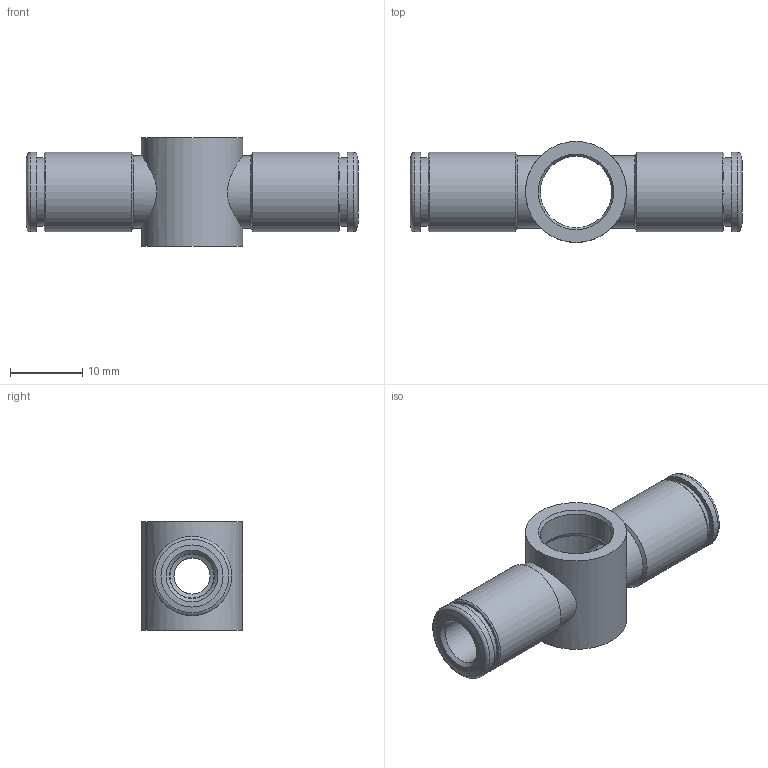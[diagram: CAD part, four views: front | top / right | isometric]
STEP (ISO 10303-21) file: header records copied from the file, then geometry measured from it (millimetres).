
FILE_DESCRIPTION(('Bauteilbeschreibung','HiCAD-Model','HiCAD-STEP-TRANSLATION','Bauteilbeschreibung'),'2;1');
FILE_NAME('B:/ABGLEICH/ZEICHNUNGEN/STEP FÜR INTERNET/STEP/201305_IPSO_014_6_1-8.STP','2011-08-04T11:42:08+00:00',('Konstrukteur'),('Konstrukteur Firma GmbH'),' HiCAD neXt 2008, Step 3.1.1401.2J ','HiCAD neXt 2008','confidential');
FILE_SCHEMA(('AUTOMOTIVE_DESIGN { 1 2 10303 214 0 1 1 1 }'));
Length unit declared in the file: millimetre
Products named in the file (4): A01305_IPSO_014_6_1_8; DR6_1_NEU; DR6010NEU; R201305_N
Assembly tree (3 placements, depth 2):
  A01305_IPSO_014_6_1_8
    DR6_1_NEU
    DR6010NEU
    R201305_N
Bounding box: 46 x 14 x 15 mm (x, y, z)
Volume: 2696.6 mm3; surface area: 4063.2 mm2
Topology: 3 solids, 3 shells, 62 faces, 127 edges, 75 vertices
Faces by surface type: cylinder 24, cone 24, plane 12, torus 2
Full cylindrical faces by diameter (mm): 5 x2, 6.1 x2, 6.2 x2, 8.3 x2, 9 x2, 9.5 x2, 9.6 x2, 9.9 x2, 10 x2, 10.6 x1, 11 x4, 14 x1
Entity records: 4339 total; most frequent: CARTESIAN_POINT 2854, DIRECTION 256, AXIS2_PLACEMENT_3D 128, EDGE_LOOP 128, ORIENTED_EDGE 128, FACE_BOUND 66, EDGE_CURVE 64, VERTEX_POINT 64
